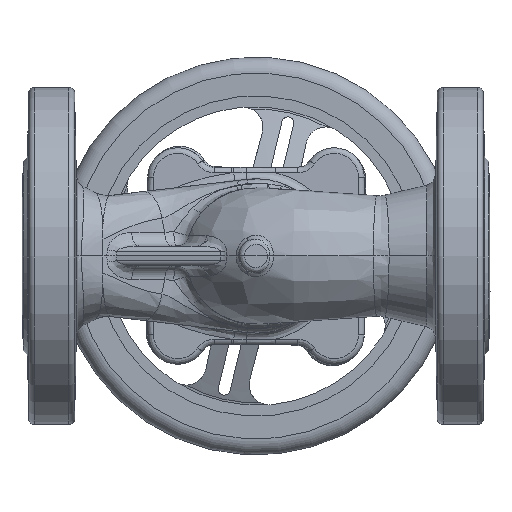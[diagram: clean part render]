
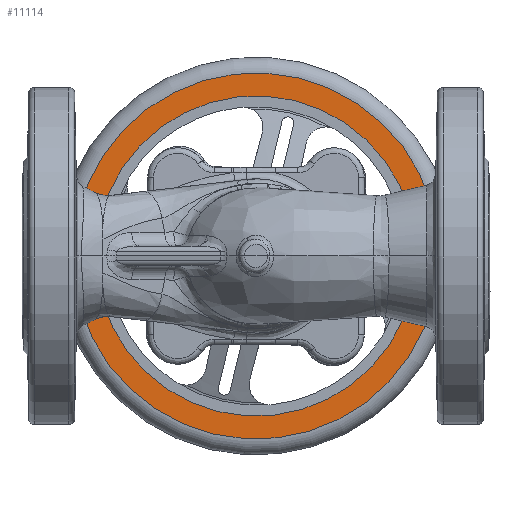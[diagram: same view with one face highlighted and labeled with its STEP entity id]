
A CAD part, left-side view. The second image highlights one B-rep face of the part: STEP entity #11114.
In plain terms, the highlighted planar face has unit normal (-1, 0, 0) as drawn and (0, 1, 0) by its records, which use the part's own axes.
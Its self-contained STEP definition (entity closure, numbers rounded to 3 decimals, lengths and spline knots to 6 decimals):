
#77=FACE_BOUND('',#3708,.T.);
#273=PLANE('',#12303);
#2995=FACE_OUTER_BOUND('',#3707,.T.);
#3707=EDGE_LOOP('',(#10363));
#3708=EDGE_LOOP('',(#10364));
#4286=CIRCLE('',#12299,0.064293);
#4289=CIRCLE('',#12304,0.056233);
#5334=VERTEX_POINT('',#51322);
#5336=VERTEX_POINT('',#51330);
#7023=EDGE_CURVE('',#5334,#5334,#4286,.T.);
#7027=EDGE_CURVE('',#5336,#5336,#4289,.T.);
#10363=ORIENTED_EDGE('',*,*,#7023,.T.);
#10364=ORIENTED_EDGE('',*,*,#7027,.T.);
#11114=ADVANCED_FACE('',(#2995,#77),#273,.T.);
#12299=AXIS2_PLACEMENT_3D('',#51323,#14847,#14848);
#12303=AXIS2_PLACEMENT_3D('',#51329,#14856,#14857);
#12304=AXIS2_PLACEMENT_3D('',#51331,#14858,#14859);
#14847=DIRECTION('center_axis',(0.,1.,0.));
#14848=DIRECTION('ref_axis',(-1.,0.,0.));
#14856=DIRECTION('center_axis',(0.,1.,0.));
#14857=DIRECTION('ref_axis',(1.,0.,0.));
#14858=DIRECTION('center_axis',(0.,-1.,0.));
#14859=DIRECTION('ref_axis',(1.,0.,0.));
#51322=CARTESIAN_POINT('',(0.064272,0.003413,0.));
#51323=CARTESIAN_POINT('Origin',(-0.000021,0.003413,
0.));
#51329=CARTESIAN_POINT('Origin',(-0.000021,0.003413,
0.056233));
#51330=CARTESIAN_POINT('',(0.056212,0.003413,0.));
#51331=CARTESIAN_POINT('Origin',(-0.000021,0.003413,
0.));
